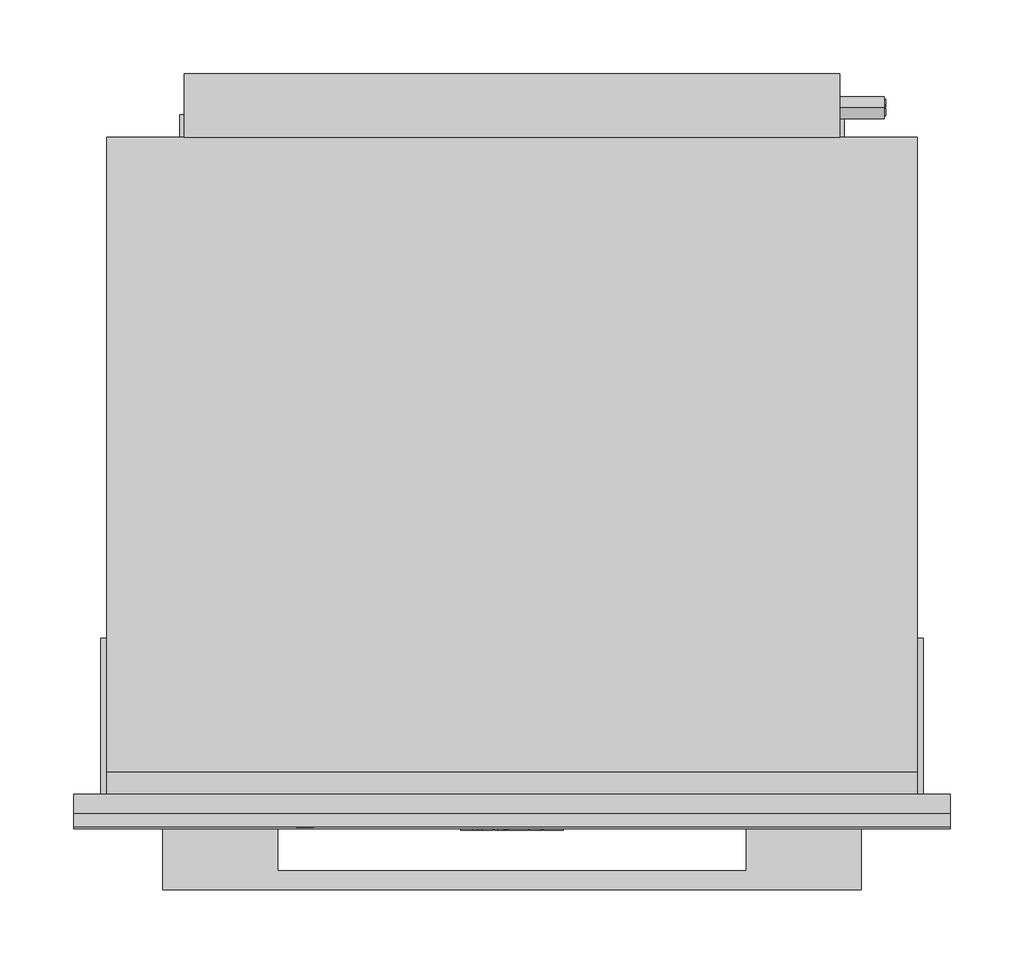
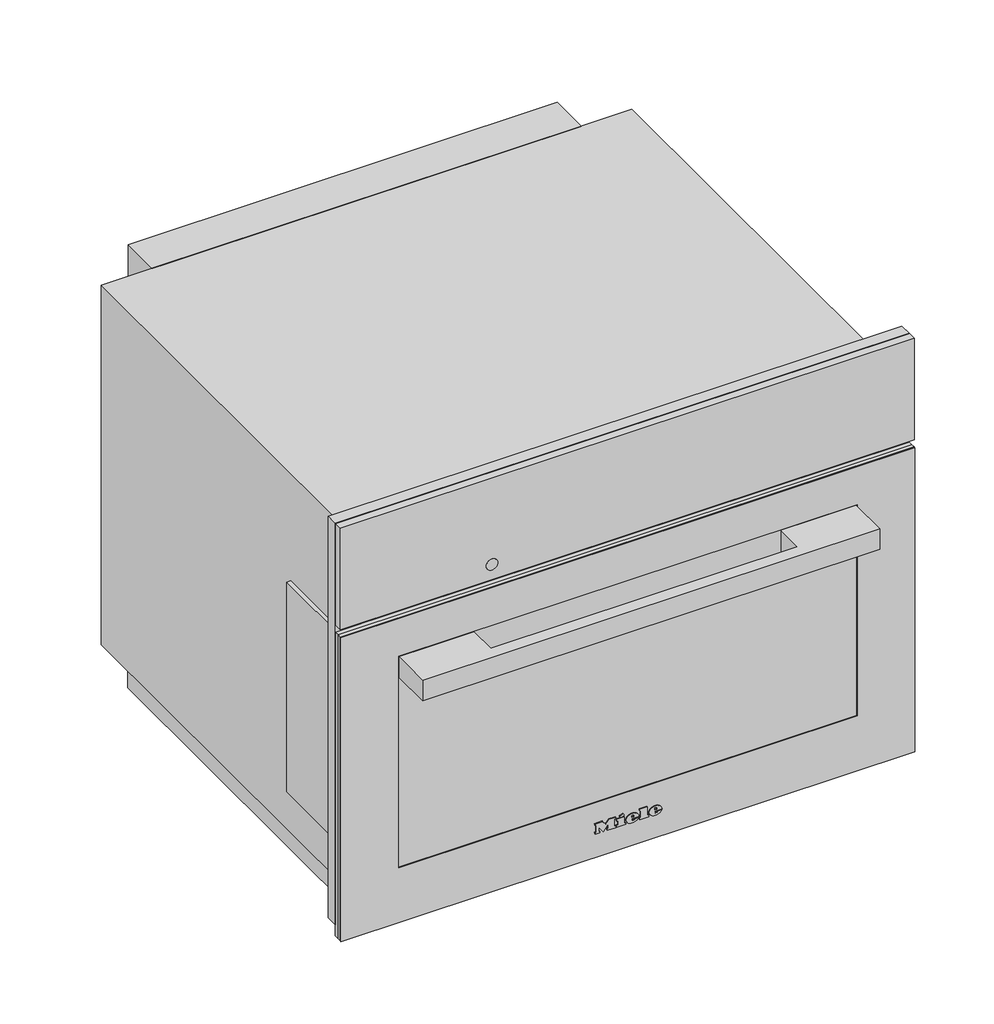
# Not in any storey: 1 proxy.
"""IFC4 building model written with IfcOpenShell, lengths in millimetres."""

import ifcopenshell
import ifcopenshell.guid

model = None  # the IFC model being written
_history = None  # IfcOwnerHistory: only IFC2X3 demands one
_inside = {}  # id of a spatial element -> (the spatial element, [elements in it])
_under = {}  # id of a project, library or spatial element -> (it, [spatial elements below it])
_declared = {}  # id of a project -> (the project, [libraries it declares])
_typed = {}  # id of a type object -> (the type object, [elements of that type])
_made_of = {}  # id of a material, layer set ... -> (it, [elements and type objects made of it])


def new_model(schema):
    """Start an empty IFC model of exactly this schema.

    Asked for "IFC4X3", IfcOpenShell would pick the latest addendum, in which some entities
    have other attributes; the version numbers below select the first issue.
    IFC2X3 requires an IfcOwnerHistory on every rooted entity: one is made here for all.
    """
    global model, _history
    if schema == "IFC4X3":
        model = ifcopenshell.file(schema_version=(4, 3, 0, 0))
    else:
        model = ifcopenshell.file(schema=schema)
    _inside.clear()
    _under.clear()
    _declared.clear()
    _typed.clear()
    _made_of.clear()
    _history = None
    if model.schema == "IFC2X3":
        org = make("IfcOrganization", Name="unknown")
        user = make(
            "IfcPersonAndOrganization",
            ThePerson=make("IfcPerson", FamilyName="unknown"),
            TheOrganization=org,
        )
        app = make(
            "IfcApplication",
            ApplicationDeveloper=org,
            Version="unknown",
            ApplicationFullName="unknown",
            ApplicationIdentifier="unknown",
        )
        _history = make(
            "IfcOwnerHistory",
            OwningUser=user,
            OwningApplication=app,
            ChangeAction="ADDED",
            CreationDate=0,
        )
    return model


def make(cls, **values):
    """One entity of the class cls with the attributes given. An attribute that is None is left unset."""
    return model.create_entity(
        cls, **{name: value for name, value in values.items() if value is not None}
    )


def rooted(cls, **values):
    """An entity with a GlobalId (a new one), such as an element, a storey or a relation."""
    return make(cls, GlobalId=ifcopenshell.guid.new(), OwnerHistory=_history, **values)


def si_unit(unit_type, name, prefix=None):
    """IfcSIUnit, for example si_unit("LENGTHUNIT", "METRE", prefix="MILLI")."""
    return make("IfcSIUnit", UnitType=unit_type, Prefix=prefix, Name=name)


def assignment(units):
    """IfcUnitAssignment: the units of a project."""
    return None if units is None else make("IfcUnitAssignment", Units=units)


def point(xyz):
    """IfcCartesianPoint."""
    return None if xyz is None else make("IfcCartesianPoint", Coordinates=xyz)


def direction(xyz):
    """IfcDirection."""
    return None if xyz is None else make("IfcDirection", DirectionRatios=xyz)


def frame(location, z_axis=None, x_axis=None):
    """IfcAxis2Placement3D, a coordinate frame: its origin and axes. An axis left out is left unset."""
    return make(
        "IfcAxis2Placement3D",
        Location=point(location),
        Axis=direction(z_axis),
        RefDirection=direction(x_axis),
    )


def frame_2d(location, x_axis=None):
    """IfcAxis2Placement2D, a coordinate frame in the plane: its origin and x axis."""
    return make(
        "IfcAxis2Placement2D", Location=point(location), RefDirection=direction(x_axis)
    )


def origin():
    """The frame at (0, 0, 0) with its axes left unset."""
    return frame((0.0, 0.0, 0.0))


def origin_with_axes():
    """The frame at (0, 0, 0) with the z axis (0, 0, 1) and the x axis (1, 0, 0) written out."""
    return frame((0.0, 0.0, 0.0), z_axis=(0.0, 0.0, 1.0), x_axis=(1.0, 0.0, 0.0))


def place(relative_to, where):
    """IfcLocalPlacement: puts the frame where relative to a parent placement (None: the world)."""
    return make(
        "IfcLocalPlacement", PlacementRelTo=relative_to, RelativePlacement=where
    )


def context(
    kind, dimensions, precision=None, world=None, true_north=None, identifier=None
):
    """IfcGeometricRepresentationContext, for example the 3D "Model" context."""
    return make(
        "IfcGeometricRepresentationContext",
        ContextIdentifier=identifier,
        ContextType=kind,
        CoordinateSpaceDimension=dimensions,
        Precision=precision,
        WorldCoordinateSystem=world,
        TrueNorth=true_north,
    )


def project(units=None, contexts=None):
    """IfcProject with its units and contexts."""
    return rooted(
        "IfcProject",
        Name="project",
        RepresentationContexts=contexts,
        UnitsInContext=assignment(units),
    )


def spatial(cls, under=None, at=None, **own):
    """A site, building, storey or space (cls), placed at a placement, below another one or the project."""
    s = rooted(cls, ObjectPlacement=at, **own)
    if under is not None:
        _under.setdefault(under.id(), (under, []))[1].append(s)
    return s


def polyline(points):
    """IfcPolyline through the points."""
    return make("IfcPolyline", Points=[point(p) for p in points])


def circle_curve(where, radius):
    """IfcCircle in the frame where."""
    return make("IfcCircle", Position=where, Radius=radius)


def ellipse_curve(where, semi_axis1, semi_axis2):
    """IfcEllipse in the frame where."""
    return make(
        "IfcEllipse", Position=where, SemiAxis1=semi_axis1, SemiAxis2=semi_axis2
    )


def trimmed(basis, trim1, trim2, sense, master):
    """IfcTrimmedCurve: the piece of a basis curve between two trims."""
    return make(
        "IfcTrimmedCurve",
        BasisCurve=basis,
        Trim1=trim1,
        Trim2=trim2,
        SenseAgreement=sense,
        MasterRepresentation=master,
    )


def segment(curve, same_sense, transition):
    """IfcCompositeCurveSegment."""
    return make(
        "IfcCompositeCurveSegment",
        Transition=transition,
        SameSense=same_sense,
        ParentCurve=curve,
    )


def composite_curve(segments, self_intersect=None):
    """IfcCompositeCurve: segments joined end to end."""
    return make("IfcCompositeCurve", Segments=segments, SelfIntersect=self_intersect)


def outline(outer, holes=None, kind="AREA"):
    """IfcArbitraryClosedProfileDef: a profile drawn as a closed curve; with holes, ...WithVoids."""
    if holes is None:
        return make("IfcArbitraryClosedProfileDef", ProfileType=kind, OuterCurve=outer)
    return make(
        "IfcArbitraryProfileDefWithVoids",
        ProfileType=kind,
        OuterCurve=outer,
        InnerCurves=holes,
    )


def extrude(swept, where, along, depth):
    """IfcExtrudedAreaSolid: the profile swept, set in the frame where, extruded along a direction by depth."""
    return make(
        "IfcExtrudedAreaSolid",
        SweptArea=swept,
        Position=where,
        ExtrudedDirection=direction(along),
        Depth=depth,
    )


def faces_of(points, faces, orient=None, outer=None):
    """IfcFace entities. A face is a list of loops; a loop is a list of indices into points, from 0.

    orient and outer hold one flag for each loop. By default every Orientation is true, the
    first loop of a face is its IfcFaceOuterBound and the others are IfcFaceBound.
    """
    made = []
    for i, loops in enumerate(faces):
        bounds = []
        for j, loop in enumerate(loops):
            is_outer = j == 0 if outer is None else outer[i][j]
            bounds.append(
                make(
                    "IfcFaceOuterBound" if is_outer else "IfcFaceBound",
                    Bound=make("IfcPolyLoop", Polygon=[points[k] for k in loop]),
                    Orientation=True if orient is None else orient[i][j],
                )
            )
        made.append(make("IfcFace", Bounds=bounds))
    return made


def faceted_brep(points, faces, orient=None, outer=None, voids=None):
    """IfcFacetedBrep: a solid bounded by flat faces; with voids (closed shells), ...WithVoids."""
    shared = [point(p) for p in points]
    hull = make("IfcClosedShell", CfsFaces=faces_of(shared, faces, orient, outer))
    if voids is None:
        return make("IfcFacetedBrep", Outer=hull)
    return make(
        "IfcFacetedBrepWithVoids",
        Outer=hull,
        Voids=[
            make(cls, CfsFaces=faces_of(shared, fs, o, b)) for cls, fs, o, b in voids
        ],
    )


def shape(context_of_items, identifier, shape_type, items):
    """IfcShapeRepresentation: the items that make up one representation, for example the "Body"."""
    return make(
        "IfcShapeRepresentation",
        ContextOfItems=context_of_items,
        RepresentationIdentifier=identifier,
        RepresentationType=shape_type,
        Items=items,
    )


def source(mapping_origin, context_of_items, identifier, shape_type, items):
    """IfcRepresentationMap: a shape defined once, which mapped items show again and again."""
    return make(
        "IfcRepresentationMap",
        MappingOrigin=mapping_origin,
        MappedRepresentation=shape(context_of_items, identifier, shape_type, items),
    )


def transform(
    local_origin,
    x_axis=None,
    y_axis=None,
    z_axis=None,
    scale=None,
    scale2=None,
    scale3=None,
    uniform=True,
):
    """IfcCartesianTransformationOperator3D, or its non-uniform kind. x_axis, y_axis, z_axis: its Axis1, 2, 3."""
    if uniform:
        return make(
            "IfcCartesianTransformationOperator3D",
            Axis1=direction(x_axis),
            Axis2=direction(y_axis),
            LocalOrigin=point(local_origin),
            Scale=scale,
            Axis3=direction(z_axis),
        )
    return make(
        "IfcCartesianTransformationOperator3DnonUniform",
        Axis1=direction(x_axis),
        Axis2=direction(y_axis),
        LocalOrigin=point(local_origin),
        Scale=scale,
        Axis3=direction(z_axis),
        Scale2=scale2,
        Scale3=scale3,
    )


def mapped(mapping_source, mapping_target):
    """IfcMappedItem: shows the shape of a source again, moved by a transform."""
    return make(
        "IfcMappedItem", MappingSource=mapping_source, MappingTarget=mapping_target
    )


def made_of(thing, what):
    """Note that an element or type object is made of a material, layer set ...; save() writes the relation."""
    if what is not None:
        _made_of.setdefault(what.id(), (what, []))[1].append(thing)
    return thing


def element(
    cls,
    number,
    at=None,
    inside=None,
    cuts=None,
    type_object=None,
    material=None,
    context=None,
    identifier="Body",
    shape_type=None,
    held_by="IfcProductDefinitionShape",
    body=None,
    shapes=None,
    **own,
):
    """One element of the class cls, such as IfcWall. Its Tag is "e" and its number.

    at: its placement. inside: the storey or other place that contains it. cuts: it is an
    opening in that element (IfcRelVoidsElement). A single representation is given by context,
    identifier, shape_type and body (its items); several are given by shapes. held_by: the class
    of the entity that holds the representations. save() writes the other relations.
    """
    e = rooted(cls, Tag="e%d" % number, ObjectPlacement=at, **own)
    if body is not None:
        shapes = [shape(context, identifier, shape_type, body)]
    if shapes is not None:
        e.Representation = make(held_by, Representations=shapes)
    if inside is not None:
        _inside.setdefault(inside.id(), (inside, []))[1].append(e)
    if cuts is not None:
        rooted(
            "IfcRelVoidsElement", RelatingBuildingElement=cuts, RelatedOpeningElement=e
        )
    if type_object is not None:
        _typed.setdefault(type_object.id(), (type_object, []))[1].append(e)
    return made_of(e, material)


def aggregate(whole, parts):
    """IfcRelAggregates: a whole, such as a stair, and the parts it consists of."""
    return rooted("IfcRelAggregates", RelatingObject=whole, RelatedObjects=parts)


def save(model, path):
    """Write the relations noted so far, then the file.

    IfcRelAggregates (storeys below a building ...), IfcRelContainedInSpatialStructure (elements
    in a storey), IfcRelDefinesByType, IfcRelAssociatesMaterial and IfcRelDeclares: one each for
    every whole, place, type object, material and project.
    """
    for whole, parts in _under.values():
        aggregate(whole, parts)
    for where, things in _inside.values():
        rooted(
            "IfcRelContainedInSpatialStructure",
            RelatedElements=things,
            RelatingStructure=where,
        )
    for kind, things in _typed.values():
        rooted("IfcRelDefinesByType", RelatedObjects=things, RelatingType=kind)
    for what, things in _made_of.values():
        rooted("IfcRelAssociatesMaterial", RelatedObjects=things, RelatingMaterial=what)
    for by, libraries in _declared.values():
        rooted("IfcRelDeclares", RelatingContext=by, RelatedDefinitions=libraries)
    model.write(path)


def plane_surface(at):
    """IfcPlane: the flat surface through the origin of the frame at, square to its z axis."""
    return make("IfcPlane", Position=at)


def cylinder_surface(at, radius):
    """IfcCylindricalSurface: all points at the distance radius from the z axis of the frame at."""
    return make("IfcCylindricalSurface", Position=at, Radius=radius)


def revolved_surface(curve, axis_point, axis_direction):
    """IfcSurfaceOfRevolution: the curve turned about the line through axis_point along axis_direction."""
    return make(
        "IfcSurfaceOfRevolution",
        SweptCurve=make("IfcArbitraryOpenProfileDef", ProfileType="CURVE", Curve=curve),
        AxisPosition=make("IfcAxis1Placement", Location=point(axis_point), Axis=direction(axis_direction)),
    )


def extruded_surface(curve, direction_of_extrusion, depth):
    """IfcSurfaceOfLinearExtrusion: the curve pushed along a direction by depth."""
    return make(
        "IfcSurfaceOfLinearExtrusion",
        SweptCurve=make("IfcArbitraryOpenProfileDef", ProfileType="CURVE", Curve=curve),
        ExtrudedDirection=direction(direction_of_extrusion),
        Depth=depth,
    )


def advanced_brep(points, edges, surfaces, faces):
    """IfcAdvancedBrep: a solid bounded by faces that lie on surfaces and meet in shared edges.

    An edge is (start, end): straight between two places in points (the first is 0);
    or (start, end, curve); or (start, end, curve, False) where it runs against its curve.
    A face is (place in surfaces, loops), or (place, loops, False) where it looks against
    its surface's normal. A loop lists edges by number (the first is 1), with a minus sign
    where the edge is run from its end to its start. The first loop is the outer one.
    """
    corners = [point(p) for p in points]
    vertices = [make("IfcVertexPoint", VertexGeometry=c) for c in corners]
    made = []
    for start, end, *more in edges:
        made.append(
            make(
                "IfcEdgeCurve",
                EdgeStart=vertices[start],
                EdgeEnd=vertices[end],
                EdgeGeometry=more[0] if more else make("IfcPolyline", Points=[corners[start], corners[end]]),
                SameSense=more[1] if len(more) > 1 else True,
            )
        )
    hull = []
    for where, loops, *sense in faces:
        bounds = []
        for j, loop in enumerate(loops):
            ring = [make("IfcOrientedEdge", EdgeElement=made[abs(k) - 1], Orientation=k > 0) for k in loop]
            bounds.append(
                make(
                    "IfcFaceOuterBound" if j == 0 else "IfcFaceBound",
                    Bound=make("IfcEdgeLoop", EdgeList=ring),
                    Orientation=True,
                )
            )
        hull.append(make("IfcAdvancedFace", Bounds=bounds, FaceSurface=surfaces[where], SameSense=sense[0] if sense else True))
    return make("IfcAdvancedBrep", Outer=make("IfcClosedShell", CfsFaces=hull))


def specialty_equipment_9b4e9018(model_context):
    return source(origin(), model_context, "Body", "SolidModel", [
        extrude(outline(polyline([(456.0, 297.5), (456.0, -297.5), (16.0, -297.5), (16.0, 297.5), (456.0, 297.5)]), holes=[polyline([(347.0, -270.0), (347.0, 270.0), (40.0, 270.0), (40.0, -270.0), (347.0, -270.0)])]), frame((0.0, -13.0, 0.0), z_axis=(0.0, 1.0, 0.0), x_axis=(0.0, 0.0, 1.0)), (0.0, 0.0, 1.0), 13.0),
        extrude(outline(composite_curve([segment(trimmed(circle_curve(frame_2d((251.5, 37.5)), 10.5), [point((251.5, 27.0))], [point((251.5, 48.0))], False, "CARTESIAN"), True, "CONTINUOUS"), segment(trimmed(circle_curve(frame_2d((251.5, 37.5)), 10.5), [point((251.5, 48.0))], [point((251.5, 27.0))], False, "CARTESIAN"), True, "CONTINUOUS")], self_intersect=False)), origin_with_axes(), (0.0, 0.0, 1.0), 3.0),
        extrude(outline(composite_curve([segment(trimmed(circle_curve(frame_2d((251.5, 397.5)), 10.5), [point((251.5, 387.0))], [point((251.5, 408.0))], False, "CARTESIAN"), True, "CONTINUOUS"), segment(trimmed(circle_curve(frame_2d((251.5, 397.5)), 10.5), [point((251.5, 408.0))], [point((251.5, 387.0))], False, "CARTESIAN"), True, "CONTINUOUS")], self_intersect=False)), origin_with_axes(), (0.0, 0.0, 1.0), 3.0),
        extrude(outline(composite_curve([segment(trimmed(circle_curve(frame_2d((-251.5, 397.5)), 10.5), [point((-251.5, 387.0))], [point((-251.5, 408.0))], False, "CARTESIAN"), True, "CONTINUOUS"), segment(trimmed(circle_curve(frame_2d((-251.5, 397.5)), 10.5), [point((-251.5, 408.0))], [point((-251.5, 387.0))], False, "CARTESIAN"), True, "CONTINUOUS")], self_intersect=False)), origin_with_axes(), (0.0, 0.0, 1.0), 3.0),
        extrude(outline(composite_curve([segment(trimmed(circle_curve(frame_2d((-251.5, 37.5)), 10.5), [point((-251.5, 27.0))], [point((-251.5, 48.0))], False, "CARTESIAN"), True, "CONTINUOUS"), segment(trimmed(circle_curve(frame_2d((-251.5, 37.5)), 10.5), [point((-251.5, 48.0))], [point((-251.5, 27.0))], False, "CARTESIAN"), True, "CONTINUOUS")], self_intersect=False)), origin_with_axes(), (0.0, 0.0, 1.0), 3.0),
        extrude(outline(polyline([(115.0, 330.0), (115.0, 130.0), (-115.0, 130.0), (-115.0, 330.0), (115.0, 330.0)])), frame((0.0, 0.0, 11.0), z_axis=(0.0, 0.0, 1.0), x_axis=(1.0, 0.0, 0.0)), (0.0, 0.0, 1.0), 26.0),
        extrude(outline(composite_curve([segment(trimmed(circle_curve(frame_2d((466.0, 369.0)), 7.5), [point((466.0, 361.5))], [point((466.0, 376.5))], False, "CARTESIAN"), True, "CONTINUOUS"), segment(trimmed(circle_curve(frame_2d((466.0, 369.0)), 7.5), [point((466.0, 376.5))], [point((466.0, 361.5))], False, "CARTESIAN"), True, "CONTINUOUS")], self_intersect=False)), frame((222.5, 0.0, 0.0), z_axis=(1.0, 0.0, 0.0), x_axis=(0.0, 1.0, 0.0)), (0.0, 0.0, 1.0), 30.0),
        extrude(outline(polyline([(-222.5, 489.0), (222.5, 489.0), (222.5, 446.0), (-222.5, 446.0), (-222.5, 489.0)])), frame((0.0, 0.0, 316.0), z_axis=(0.0, 0.0, 1.0), x_axis=(1.0, 0.0, 0.0)), (0.0, 0.0, 1.0), 115.0),
        extrude(outline(polyline([(275.0, 0.0), (275.0, 106.0), (279.0, 106.0), (279.0, 0.0), (275.0, 0.0)])), frame((0.0, 0.0, 83.2054686), z_axis=(0.0, 0.0, 1.0), x_axis=(1.0, 0.0, 0.0)), (0.0, 0.0, 1.0), 230.0),
        extrude(outline(polyline([(-279.0, 0.0), (-279.0, 106.0), (-275.0, 106.0), (-275.0, 0.0), (-279.0, 0.0)])), frame((0.0, 0.0, 83.2054686), z_axis=(0.0, 0.0, 1.0), x_axis=(1.0, 0.0, 0.0)), (0.0, 0.0, 1.0), 230.0),
        extrude(outline(polyline([(460.5132233, 374.0), (465.5132233, 374.0), (465.5132233, 373.0), (461.5132233, 373.0), (461.5132233, 369.5), (464.5132233, 369.5), (464.5132233, 368.5), (461.5132233, 368.5), (461.5132233, 365.0), (465.5132233, 365.0), (465.5132233, 364.0), (460.5132233, 364.0), (460.5132233, 374.0)])), frame((252.5, 0.0, 0.0), z_axis=(1.0, 0.0, 0.0), x_axis=(0.0, 1.0, 0.0)), (0.0, 0.0, 1.0), 1.0),
        extrude(outline(polyline([(466.5132233, 364.0), (466.5132233, 374.0), (467.5176929, 374.0), (467.5176929, 365.0), (471.5132233, 365.0), (471.5132233, 364.0), (466.5132233, 364.0)])), frame((252.5, 0.0, 0.0), z_axis=(1.0, 0.0, 0.0), x_axis=(0.0, 1.0, 0.0)), (0.0, 0.0, 1.0), 1.0),
        extrude(outline(polyline([(289.0, -225.5), (58.0, -225.5), (58.0, 0.0), (58.0, 225.5), (289.0, 225.5), (289.0, 0.0), (289.0, -225.5)])), frame((0.0, 446.0, 0.0), z_axis=(0.0, 1.0, 0.0), x_axis=(0.0, 0.0, 1.0)), (0.0, 0.0, 1.0), 15.0),
        faceted_brep([(-275.0, 446.0, 431.0), (275.0, 446.0, 431.0), (275.0, 446.0, 37.0), (-275.0, 446.0, 37.0), (-275.0, 0.0, 37.0), (-264.0, 0.0, 37.0), (-264.0, 0.0, 3.0), (-239.0, 0.0, 3.0), (-239.0, 0.0, 37.0), (239.0, 0.0, 37.0), (239.0, 0.0, 3.0), (264.0, 0.0, 3.0), (264.0, 0.0, 37.0), (275.0, 0.0, 37.0), (275.0, 0.0, 438.0), (-275.0, 0.0, 438.0), (-270.0, 0.0, 347.0), (270.0, 0.0, 347.0), (270.0, 0.0, 40.0), (-270.0, 0.0, 40.0), (-275.0, 15.0, 431.0), (275.0, 15.0, 431.0), (-275.0, 15.0, 438.0), (275.0, 15.0, 438.0), (270.0, 16.0, 347.0), (-270.0, 16.0, 347.0), (-270.0, 16.0, 40.0), (270.0, 16.0, 40.0), (225.0, 16.0, 303.0), (225.0, 16.0, 71.0), (-225.0, 16.0, 71.0), (-225.0, 16.0, 303.0), (225.0, 444.0, 303.0), (-225.0, 444.0, 303.0), (-225.0, 444.0, 71.0), (225.0, 444.0, 71.0), (-239.0, 418.0, 37.0), (-264.0, 418.0, 37.0), (264.0, 418.0, 37.0), (239.0, 418.0, 37.0), (-239.0, 418.0, 3.0), (239.0, 418.0, 3.0), (264.0, 418.0, 3.0), (-264.0, 418.0, 3.0)], [[[0, 1, 2, 3]], [[4, 5, 6, 7, 8, 9, 10, 11, 12, 13, 14, 15], [16, 17, 18, 19]], [[1, 0, 20, 21]], [[0, 3, 4, 15, 22, 20]], [[2, 1, 21, 23, 14, 13]], [[24, 25, 26, 27], [28, 29, 30, 31]], [[25, 24, 17, 16]], [[26, 25, 16, 19]], [[27, 26, 19, 18]], [[24, 27, 18, 17]], [[32, 33, 34, 35]], [[32, 35, 29, 28]], [[35, 34, 30, 29]], [[34, 33, 31, 30]], [[33, 32, 28, 31]], [[14, 23, 22, 15]], [[23, 21, 20, 22]], [[36, 37, 5, 4, 3, 2, 13, 12, 38, 39, 9, 8]], [[36, 8, 7, 40]], [[9, 39, 41, 10]], [[39, 38, 42, 41]], [[38, 12, 11, 42]], [[5, 37, 43, 6]], [[37, 36, 40, 43]], [[7, 6, 43, 40]], [[11, 10, 41, 42]]]),
        advanced_brep(
        [(27.088, -24.3, 32.7018), (27.088, -24.3, 33.8532), (34.7146, -24.3, 33.8532), (21.445, -24.3, 33.8532), (24.58, -24.3, 30.0), (34.5208, -24.3, 32.7018), (31.078, -24.3, 32.7018), (28.3648, -24.3, 31.425), (27.088, -24.3, 35.3124), (27.088, -24.3, 36.555), (29.0374, -24.3, 36.555), (29.0374, -24.3, 35.3124), (27.088, -23.3, 32.7018), (28.3648, -23.3, 31.425), (31.078, -23.3, 32.7018), (34.5208, -23.3, 32.7018), (24.58, -23.3, 30.0), (21.445, -23.3, 33.8532), (34.7146, -23.3, 33.8532), (27.088, -23.3, 33.8532), (27.088, -23.3, 35.3124), (29.0374, -23.3, 35.3124), (29.0374, -23.3, 36.555), (27.088, -23.3, 36.555)],
        [
            (0, 1),
            (1, 2),
            (2, 3, ellipse_curve(frame((28.0798, -24.3, 33.8532), z_axis=(0.0, -1.0, 0.0), x_axis=(-1.0, 0.0, 0.0)), 6.6348, 5.4834)),
            (3, 4, circle_curve(frame((25.8568622, -24.3, 34.2408), z_axis=(0.0, -1.0, 0.0), x_axis=(0.0, 0.0, -1.0)), 4.4288556)),
            (4, 5, circle_curve(frame((27.9469808, -24.3, 37.2504), z_axis=(0.0, -1.0, 0.0), x_axis=(0.0, 0.0, -1.0)), 7.9940516)),
            (5, 6),
            (6, 7, circle_curve(frame((28.9220588, -24.3, 33.762), z_axis=(0.0, 1.0, 0.0), x_axis=(0.0, 0.0, -1.0)), 2.4025208)),
            (7, 0, circle_curve(frame((28.3648, -24.3, 32.7018), z_axis=(0.0, 1.0, 0.0), x_axis=(0.0, 0.0, -1.0)), 1.2768)),
            (8, 9),
            (9, 10, circle_curve(frame((28.0627, -24.3, 36.555), z_axis=(0.0, 1.0, 0.0), x_axis=(0.0, 0.0, -1.0)), 0.9747)),
            (10, 11),
            (11, 8),
            (12, 13, circle_curve(frame((28.3648, -23.3, 32.7018), z_axis=(0.0, -1.0, 0.0), x_axis=(0.0, 0.0, -1.0)), 1.2768)),
            (13, 14, circle_curve(frame((28.9220588, -23.3, 33.762), z_axis=(0.0, -1.0, 0.0), x_axis=(0.0, 0.0, -1.0)), 2.4025208)),
            (14, 15),
            (15, 16, circle_curve(frame((27.9469808, -23.3, 37.2504), z_axis=(0.0, 1.0, 0.0), x_axis=(0.0, 0.0, -1.0)), 7.9940516)),
            (16, 17, circle_curve(frame((25.8568622, -23.3, 34.2408), z_axis=(0.0, 1.0, 0.0), x_axis=(0.0, 0.0, -1.0)), 4.4288556)),
            (17, 18, ellipse_curve(frame((28.0798, -23.3, 33.8532), z_axis=(0.0, 1.0, 0.0), x_axis=(-1.0, 0.0, 0.0)), 6.6348, 5.4834)),
            (18, 19),
            (19, 12),
            (20, 21),
            (21, 22),
            (22, 23, circle_curve(frame((28.0627, -23.3, 36.555), z_axis=(0.0, -1.0, 0.0), x_axis=(0.0, 0.0, -1.0)), 0.9747)),
            (23, 20),
            (0, 12),
            (19, 1),
            (18, 2),
            (5, 15),
            (14, 6),
            (17, 3),
            (13, 7),
            (16, 4),
            (8, 20),
            (23, 9),
            (22, 10),
            (21, 11),
        ],
        [
            plane_surface(frame((27.088, -24.3, 33.8532), z_axis=(0.0, -1.0, 0.0), x_axis=(0.0, 0.0, 1.0))),
            plane_surface(frame((27.088, -23.3, 33.8532), z_axis=(0.0, 1.0, 0.0), x_axis=(0.0, 0.0, -1.0))),
            plane_surface(frame((27.088, -24.3, 32.7018), z_axis=(1.0, 0.0, 0.0), x_axis=(0.0, 1.0, 0.0))),
            plane_surface(frame((27.088, -24.3, 33.8532), z_axis=(0.0, 0.0, -1.0), x_axis=(0.0, 1.0, 0.0))),
            plane_surface(frame((34.5208, -24.3, 32.7018), z_axis=(0.0, 0.0, 1.0), x_axis=(0.0, 1.0, 0.0))),
            extruded_surface(trimmed(ellipse_curve(frame((28.0798, -22.3, 33.8532), z_axis=(0.0, -1.0, 0.0), x_axis=(-1.0, 0.0, 0.0)), 6.6348, 5.4834), [point((34.7146, -22.3, 33.8532))], [point((21.445, -22.3, 33.8532))], True, "CARTESIAN"), (0.0, -1.0, 0.0), 1.0),
            revolved_surface(polyline([(28.9220588, -23.3, 31.3594792), (28.9220588, -24.3, 31.3594792)]), (28.9220588, -23.3, 33.762), (0.0, 1.0, 0.0)),
            revolved_surface(polyline([(28.3648, -23.3, 31.424999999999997), (28.3648, -24.3, 31.424999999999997)]), (28.3648, -23.3, 32.7018), (0.0, 1.0, 0.0)),
            cylinder_surface(frame((25.8568622, -23.3, 34.2408), z_axis=(0.0, -1.0, 0.0), x_axis=(0.0, 0.0, -1.0)), 4.4288556),
            cylinder_surface(frame((27.9469808, -23.3, 37.2504), z_axis=(0.0, -1.0, 0.0), x_axis=(0.0, 0.0, -1.0)), 7.9940516),
            plane_surface(frame((27.088, -24.3, 35.3124), z_axis=(1.0, 0.0, 0.0), x_axis=(0.0, 1.0, 0.0))),
            revolved_surface(polyline([(28.0627, -23.3, 35.5803), (28.0627, -24.3, 35.5803)]), (28.0627, -23.3, 36.555), (0.0, 1.0, 0.0)),
            plane_surface(frame((29.0374, -24.3, 36.555), z_axis=(-1.0, 0.0, 0.0), x_axis=(0.0, 1.0, 0.0))),
            plane_surface(frame((29.0374, -24.3, 35.3124), z_axis=(0.0, 0.0, 1.0), x_axis=(0.0, 1.0, 0.0))),
        ],
        [
            (0, [[1, 2, 3, 4, 5, 6, 7, 8], [9, 10, 11, 12]]),
            (1, [[13, 14, 15, 16, 17, 18, 19, 20], [21, 22, 23, 24]]),
            (2, [[-1, 25, -20, 26]]),
            (3, [[-2, -26, -19, 27]]),
            (4, [[-6, 28, -15, 29]]),
            (5, [[-3, -27, -18, 30]]),
            (6, [[-7, -29, -14, 31]]),
            (7, [[-8, -31, -13, -25]]),
            (8, [[-4, -30, -17, 32]]),
            (9, [[-5, -32, -16, -28]]),
            (10, [[-9, 33, -24, 34]]),
            (11, [[-10, -34, -23, 35]]),
            (12, [[-11, -35, -22, 36]]),
            (13, [[-12, -36, -21, -33]]),
        ],
    ),
        advanced_brep(
        [(3.2962, -24.3, 32.7018), (3.2962, -24.3, 33.8532), (10.9228, -24.3, 33.8532), (-2.3468, -24.3, 33.8532), (0.7882, -24.3, 30.0), (10.729, -24.3, 32.7018), (7.2862, -24.3, 32.7018), (4.573, -24.3, 31.425), (3.2962, -24.3, 35.3124), (3.2962, -24.3, 36.555), (5.2456, -24.3, 36.555), (5.2456, -24.3, 35.3124), (3.2962, -23.3, 32.7018), (4.573, -23.3, 31.425), (7.2862, -23.3, 32.7018), (10.729, -23.3, 32.7018), (0.7882, -23.3, 30.0), (-2.3468, -23.3, 33.8532), (10.9228, -23.3, 33.8532), (3.2962, -23.3, 33.8532), (3.2962, -23.3, 35.3124), (5.2456, -23.3, 35.3124), (5.2456, -23.3, 36.555), (3.2962, -23.3, 36.555)],
        [
            (0, 1),
            (1, 2),
            (2, 3, ellipse_curve(frame((4.288, -24.3, 33.8532), z_axis=(0.0, -1.0, 0.0), x_axis=(-1.0, 0.0, 0.0)), 6.6348, 5.4834)),
            (3, 4, circle_curve(frame((2.0650622, -24.3, 34.2408), z_axis=(0.0, -1.0, 0.0), x_axis=(0.0, 0.0, -1.0)), 4.4288556)),
            (4, 5, circle_curve(frame((4.1551808, -24.3, 37.2504), z_axis=(0.0, -1.0, 0.0), x_axis=(0.0, 0.0, -1.0)), 7.9940516)),
            (5, 6),
            (6, 7, circle_curve(frame((5.1302588, -24.3, 33.762), z_axis=(0.0, 1.0, 0.0), x_axis=(0.0, 0.0, -1.0)), 2.4025208)),
            (7, 0, circle_curve(frame((4.573, -24.3, 32.7018), z_axis=(0.0, 1.0, 0.0), x_axis=(0.0, 0.0, -1.0)), 1.2768)),
            (8, 9),
            (9, 10, circle_curve(frame((4.2709, -24.3, 36.555), z_axis=(0.0, 1.0, 0.0), x_axis=(0.0, 0.0, -1.0)), 0.9747)),
            (10, 11),
            (11, 8),
            (12, 13, circle_curve(frame((4.573, -23.3, 32.7018), z_axis=(0.0, -1.0, 0.0), x_axis=(0.0, 0.0, -1.0)), 1.2768)),
            (13, 14, circle_curve(frame((5.1302588, -23.3, 33.762), z_axis=(0.0, -1.0, 0.0), x_axis=(0.0, 0.0, -1.0)), 2.4025208)),
            (14, 15),
            (15, 16, circle_curve(frame((4.1551808, -23.3, 37.2504), z_axis=(0.0, 1.0, 0.0), x_axis=(0.0, 0.0, -1.0)), 7.9940516)),
            (16, 17, circle_curve(frame((2.0650622, -23.3, 34.2408), z_axis=(0.0, 1.0, 0.0), x_axis=(0.0, 0.0, -1.0)), 4.4288556)),
            (17, 18, ellipse_curve(frame((4.288, -23.3, 33.8532), z_axis=(0.0, 1.0, 0.0), x_axis=(-1.0, 0.0, 0.0)), 6.6348, 5.4834)),
            (18, 19),
            (19, 12),
            (20, 21),
            (21, 22),
            (22, 23, circle_curve(frame((4.2709, -23.3, 36.555), z_axis=(0.0, -1.0, 0.0), x_axis=(0.0, 0.0, -1.0)), 0.9747)),
            (23, 20),
            (0, 12),
            (19, 1),
            (18, 2),
            (5, 15),
            (14, 6),
            (17, 3),
            (13, 7),
            (16, 4),
            (8, 20),
            (23, 9),
            (22, 10),
            (21, 11),
        ],
        [
            plane_surface(frame((3.2962, -24.3, 33.8532), z_axis=(0.0, -1.0, 0.0), x_axis=(0.0, 0.0, 1.0))),
            plane_surface(frame((3.2962, -23.3, 33.8532), z_axis=(0.0, 1.0, 0.0), x_axis=(0.0, 0.0, -1.0))),
            plane_surface(frame((3.2962, -24.3, 32.7018), z_axis=(1.0, 0.0, 0.0), x_axis=(0.0, 1.0, 0.0))),
            plane_surface(frame((3.2962, -24.3, 33.8532), z_axis=(0.0, 0.0, -1.0), x_axis=(0.0, 1.0, 0.0))),
            plane_surface(frame((10.729, -24.3, 32.7018), z_axis=(0.0, 0.0, 1.0), x_axis=(0.0, 1.0, 0.0))),
            extruded_surface(trimmed(ellipse_curve(frame((4.288, -22.3, 33.8532), z_axis=(0.0, -1.0, 0.0), x_axis=(-1.0, 0.0, 0.0)), 6.6348, 5.4834), [point((10.9228, -22.3, 33.8532))], [point((-2.3468, -22.3, 33.8532))], True, "CARTESIAN"), (0.0, -1.0, 0.0), 1.0),
            revolved_surface(polyline([(5.1302588, -23.3, 31.3594792), (5.1302588, -24.3, 31.3594792)]), (5.1302588, -23.3, 33.762), (0.0, 1.0, 0.0)),
            revolved_surface(polyline([(4.573, -23.3, 31.424999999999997), (4.573, -24.3, 31.424999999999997)]), (4.573, -23.3, 32.7018), (0.0, 1.0, 0.0)),
            cylinder_surface(frame((2.0650622, -23.3, 34.2408), z_axis=(0.0, -1.0, 0.0), x_axis=(0.0, 0.0, -1.0)), 4.4288556),
            cylinder_surface(frame((4.1551808, -23.3, 37.2504), z_axis=(0.0, -1.0, 0.0), x_axis=(0.0, 0.0, -1.0)), 7.9940516),
            plane_surface(frame((3.2962, -24.3, 35.3124), z_axis=(1.0, 0.0, 0.0), x_axis=(0.0, 1.0, 0.0))),
            revolved_surface(polyline([(4.2709, -23.3, 35.5803), (4.2709, -24.3, 35.5803)]), (4.2709, -23.3, 36.555), (0.0, 1.0, 0.0)),
            plane_surface(frame((5.2456, -24.3, 36.555), z_axis=(-1.0, 0.0, 0.0), x_axis=(0.0, 1.0, 0.0))),
            plane_surface(frame((5.2456, -24.3, 35.3124), z_axis=(0.0, 0.0, 1.0), x_axis=(0.0, 1.0, 0.0))),
        ],
        [
            (0, [[1, 2, 3, 4, 5, 6, 7, 8], [9, 10, 11, 12]]),
            (1, [[13, 14, 15, 16, 17, 18, 19, 20], [21, 22, 23, 24]]),
            (2, [[-1, 25, -20, 26]]),
            (3, [[-2, -26, -19, 27]]),
            (4, [[-6, 28, -15, 29]]),
            (5, [[-3, -27, -18, 30]]),
            (6, [[-7, -29, -14, 31]]),
            (7, [[-8, -31, -13, -25]]),
            (8, [[-4, -30, -17, 32]]),
            (9, [[-5, -32, -16, -28]]),
            (10, [[-9, 33, -24, 34]]),
            (11, [[-10, -34, -23, 35]]),
            (12, [[-11, -35, -22, 36]]),
            (13, [[-12, -36, -21, -33]]),
        ],
    ),
        extrude(outline(polyline([(40.7274, -9.164), (38.8806, -8.2976), (40.6818, -4.433), (42.5286, -5.288), (40.7274, -9.164)])), frame((0.0, -24.3, 0.0), z_axis=(0.0, 1.0, 0.0), x_axis=(0.0, 0.0, 1.0)), (0.0, 0.0, 1.0), 1.0),
        extrude(outline(polyline([(38.6298, -11.9798), (36.5892, -11.9798), (36.5892, -10.6232), (31.9152, -10.6232), (31.9152, -11.9798), (30.0, -11.9798), (30.0, -2.9852), (31.9152, -2.9852), (31.9152, -4.3076), (38.6298, -4.3076), (38.6298, -11.9798)])), frame((0.0, -24.3, 0.0), z_axis=(0.0, 1.0, 0.0), x_axis=(0.0, 0.0, 1.0)), (0.0, 0.0, 1.0), 1.0),
        extrude(outline(polyline([(39.5418, 11.5612), (39.5418, 12.9292), (31.9152, 12.9292), (31.9152, 11.5612), (30.0, 11.5612), (30.0, 20.8066), (31.9152, 20.8066), (31.9152, 19.4044), (41.4, 19.4044), (41.4, 11.5612), (39.5418, 11.5612)])), frame((0.0, -24.3, 0.0), z_axis=(0.0, 1.0, 0.0), x_axis=(0.0, 0.0, 1.0)), (0.0, 0.0, 1.0), 1.0),
        extrude(outline(polyline([(39.5418, -34.7), (39.5418, -33.3206), (31.9152, -33.3206), (31.9152, -34.7), (30.0, -34.7), (30.0, -29.684), (31.9152, -29.684), (31.9152, -31.052), (36.7429247, -31.052), (30.0, -25.9562), (36.9402223, -20.8376), (31.9152, -20.8376), (31.9152, -22.2398), (30.0, -22.2398), (30.0, -13.1426), (31.9152, -13.1426), (31.9152, -14.5904), (39.5418, -14.5904), (39.5418, -13.1426), (41.4, -13.1426), (41.4, -20.0852), (37.125, -23.414), (41.4, -26.7542), (41.4, -34.7), (39.5418, -34.7)])), frame((0.0, -24.3, 0.0), z_axis=(0.0, 1.0, 0.0), x_axis=(0.0, 0.0, 1.0)), (0.0, 0.0, 1.0), 1.0),
        extrude(outline(polyline([(297.5, -22.0), (-297.5, -22.0), (-297.5, -13.0), (297.5, -13.0), (297.5, -22.0)])), frame((0.0, 0.0, 345.0), z_axis=(0.0, 0.0, 1.0), x_axis=(1.0, 0.0, 0.0)), (0.0, 0.0, 1.0), 111.0),
        extrude(outline(composite_curve([segment(trimmed(circle_curve(frame_2d((362.0, -140.5745637)), 6.0), [point((362.0, -146.5745637))], [point((362.0, -134.5745637))], False, "CARTESIAN"), True, "CONTINUOUS"), segment(trimmed(circle_curve(frame_2d((362.0, -140.5745637)), 6.0), [point((362.0, -134.5745637))], [point((362.0, -146.5745637))], False, "CARTESIAN"), True, "CONTINUOUS")], self_intersect=False)), frame((0.0, -22.5, 0.0), z_axis=(0.0, 1.0, 0.0), x_axis=(0.0, 0.0, 1.0)), (0.0, 0.0, 1.0), 1.0),
        extrude(outline(polyline([(297.5, -22.0), (-297.5, -22.0), (-297.5, -18.0), (297.5, -18.0), (297.5, -22.0)])), frame((0.0, 0.0, 4.0), z_axis=(0.0, 0.0, 1.0), x_axis=(1.0, 0.0, 0.0)), (0.0, 0.0, 1.0), 333.0),
        extrude(outline(polyline([(-159.0, -22.0), (-159.0, -52.0), (159.0, -52.0), (159.0, -22.0), (237.0, -22.0), (237.0, -65.0), (-237.0, -65.0), (-237.0, -22.0), (-159.0, -22.0)])), frame((0.0, 0.0, 272.0), z_axis=(0.0, 0.0, 1.0), x_axis=(1.0, 0.0, 0.0)), (0.0, 0.0, 1.0), 22.5),
        extrude(outline(polyline([(337.0, 297.5), (337.0, -297.5), (4.0, -297.5), (4.0, 297.5), (337.0, 297.5)]), holes=[polyline([(295.5, -237.5), (295.5, 237.5), (64.0, 237.5), (64.0, -237.5), (295.5, -237.5)])]), frame((0.0, -23.3, 0.0), z_axis=(0.0, 1.0, 0.0), x_axis=(0.0, 0.0, 1.0)), (0.0, 0.0, 1.0), 1.3),
        extrude(outline(polyline([(297.5, -18.0), (-297.5, -18.0), (-297.5, -13.0), (297.5, -13.0), (297.5, -18.0)])), frame((0.0, 0.0, 4.0), z_axis=(0.0, 0.0, 1.0), x_axis=(1.0, 0.0, 0.0)), (0.0, 0.0, 1.0), 333.0),
    ])


model = new_model("IFC4")

# Units and contexts
model_context = context("Model", 3, world=origin())
ifc_project = project(units=[si_unit("LENGTHUNIT", "METRE", prefix="MILLI")], contexts=[model_context])

# Site, building
site = spatial("IfcSite", under=ifc_project)
building = spatial("IfcBuilding", under=site)

# Proxy
placement = place(None, origin())
specialty_equipment_shape = specialty_equipment_9b4e9018(model_context)
element("IfcBuildingElementProxy", 1, Name="11093930_GB_M7140TC_EDST-CLST : 24714040_GB_11093930_M7140TC_EDST-CLST", ObjectType="11093930_GB_M7140TC_EDST-CLST : 24714040_GB_11093930_M7140TC_EDST-CLST", at=placement, inside=building, context=model_context, shape_type="MappedRepresentation", body=[
    mapped(specialty_equipment_shape, transform((0.0, 0.0, 0.0), x_axis=(1.0, 0.0, 0.0), y_axis=(0.0, 1.0, 0.0), z_axis=(0.0, 0.0, 1.0))),
])

save(model, "model.ifc")
